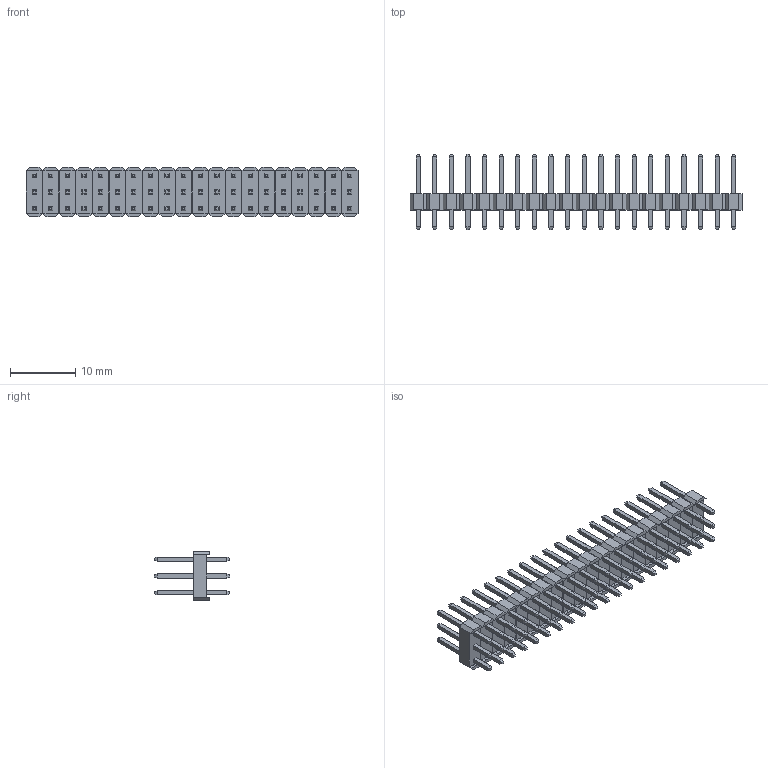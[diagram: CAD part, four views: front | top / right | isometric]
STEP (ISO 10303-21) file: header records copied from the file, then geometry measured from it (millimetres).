
FILE_DESCRIPTION (( 'STEP AP214' ), '1' );
FILE_NAME ('PZ254-3-20-Z-2.5-XX(L11.5) (2.54三排 直排针 塑高2.5-HCTL).STEP', '2024-11-27T09:34:26', ( '' ), ( '' ), 'SwSTEP 2.0', 'SolidWorks 2022', '' );
FILE_SCHEMA (( 'AUTOMOTIVE_DESIGN' ));
Length unit declared in the file: millimetre
Products named in the file (1): PZ254-3-20-Z-2.5-XX(L11.5) (2.54三排 直排针 塑高2.5-HCTL)
Bounding box: 50.76 x 11.5 x 7.5 mm (x, y, z)
Volume: 985.6 mm3; surface area: 3499.9 mm2
Topology: 39 solids, 39 shells, 1554 faces, 3508 edges, 2152 vertices
Faces by surface type: plane 1554
Entity records: 53948 total; most frequent: CARTESIAN_POINT 7215, ORIENTED_EDGE 7016, DIRECTION 6618, VECTOR 3508, EDGE_CURVE 3508, LINE 3508, VERTEX_POINT 2152, EDGE_LOOP 1674
